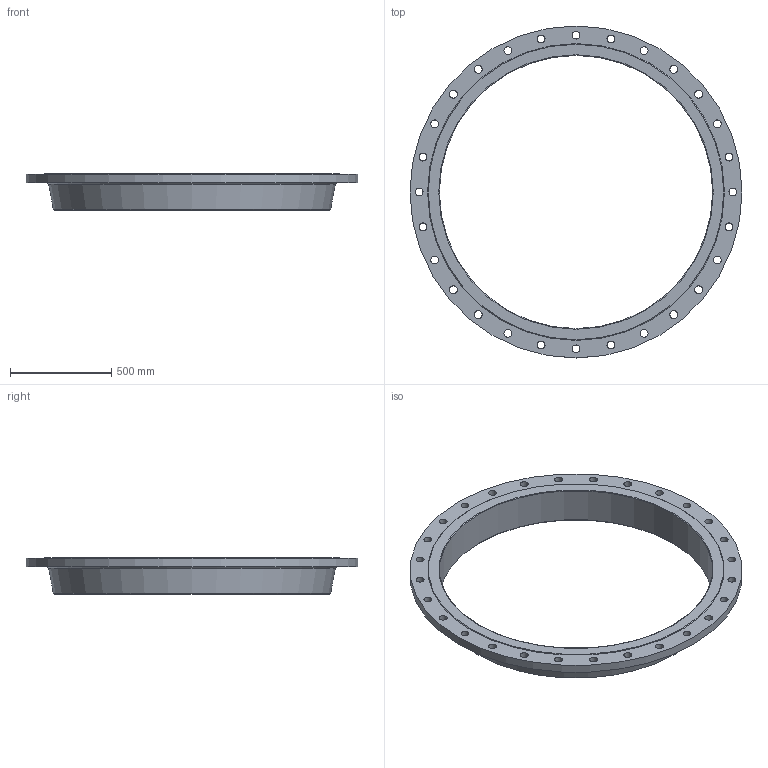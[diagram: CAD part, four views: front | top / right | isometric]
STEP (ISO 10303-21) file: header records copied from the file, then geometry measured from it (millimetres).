
FILE_DESCRIPTION(/* description */ (''),/* implementation_level */ '2;1');
FILE_NAME(/* name */ 'C:\Users\D\Documents\Inventor\HP\JIS\フランジ\水道用フランジF12\RF\ffws_rf_1350_2.stp',/* time_stamp */ '2024-08-28T10:14:42+09:00',/* author */ ('D'),/* organization */ (''),/* preprocessor_version */ 'ST-DEVELOPER v18',/* originating_system */ 'Autodesk Inventor 2020',/* authorisation */ '');
FILE_SCHEMA (('AUTOMOTIVE_DESIGN { 1 0 10303 214 3 1 1 }'));
Length unit declared in the file: millimetre
Products named in the file (1): ffws_rf_80
Bounding box: 1642 x 1642 x 180 mm (x, y, z)
Volume: 40602025.7 mm3; surface area: 2894940.7 mm2
Topology: 1 solids, 1 shells, 39 faces, 138 edges, 103 vertices
Faces by surface type: cylinder 30, plane 4, cone 3, torus 2
Full cylindrical faces by diameter (mm): 39 x28, 1351.6 x1, 1642 x1
Entity records: 1758 total; most frequent: DIRECTION 323, CARTESIAN_POINT 281, ORIENTED_EDGE 276, AXIS2_PLACEMENT_3D 145, EDGE_CURVE 138, CIRCLE 105, VERTEX_POINT 103, EDGE_LOOP 99
